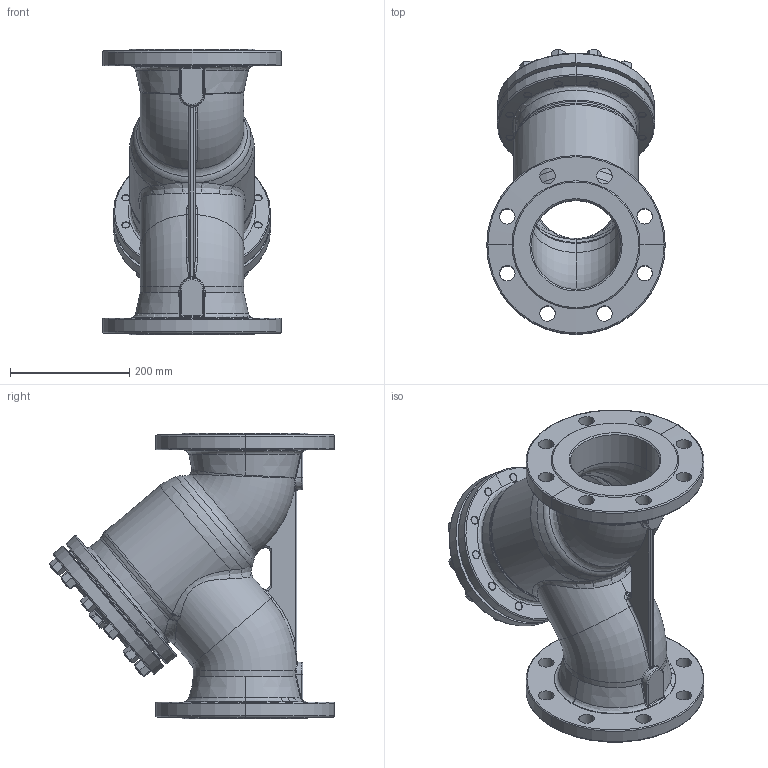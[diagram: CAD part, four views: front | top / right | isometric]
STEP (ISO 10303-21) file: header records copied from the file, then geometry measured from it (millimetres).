
FILE_DESCRIPTION (( 'STEP AP203' ), '1' );
FILE_NAME ('821_DN150 PN40.STEP', '2010-01-13T07:52:34', ( 'wtarnaws' ), ( '' ), 'SwSTEP 2.0', 'SolidWorks 2010', '' );
FILE_SCHEMA (( 'CONFIG_CONTROL_DESIGN' ));
Length unit declared in the file: millimetre
Products named in the file (6): 821_DN150 PN40; Kad³ub 150; Pokrywa 150; M16 x 45_PreviewCfg; Nakrêtka szeœciok¹tna PN-86_M-82144_M16; KOREK 1 1-2_Default
Assembly tree (27 placements, depth 2):
  821_DN150 PN40
    M16 x 45_PreviewCfg  x12
    Nakrêtka szeœciok¹tna PN-86_M-82144_M16  x12
    Pokrywa 150
    Kad³ub 150
    KOREK 1 1-2_Default
Bounding box: 300 x 478.64 x 480 mm (x, y, z)
Volume: 8595719 mm3; surface area: 1156989.2 mm2
Topology: 27 solids, 27 shells, 995 faces, 2187 edges, 1266 vertices
Faces by surface type: cylinder 316, cone 260, plane 179, torus 157, bspline 83
Entity records: 43632 total; most frequent: CARTESIAN_POINT 31913, ORIENTED_EDGE 2192, DIRECTION 2156, EDGE_CURVE 1096, AXIS2_PLACEMENT_3D 933, VERTEX_POINT 650, EDGE_LOOP 568, CIRCLE 519
